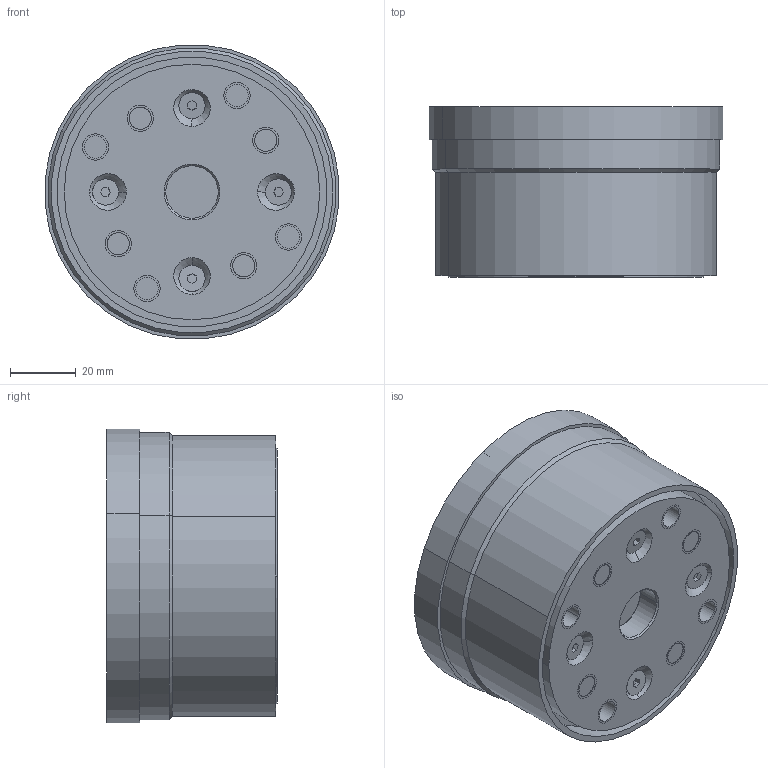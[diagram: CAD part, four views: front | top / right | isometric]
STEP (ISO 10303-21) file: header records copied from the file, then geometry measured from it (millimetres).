
FILE_DESCRIPTION((''),'2;1');
FILE_NAME('BS6-090-078','2018-02-27T',('CSW'),(''),'CREO PARAMETRIC BY PTC INC, 2016260','CREO PARAMETRIC BY PTC INC, 2016260','');
FILE_SCHEMA(('AUTOMOTIVE_DESIGN { 1 0 10303 214 1 1 1 1 }'));
Length unit declared in the file: millimetre
Products named in the file (1): BS6-090-078
Bounding box: 89.66 x 52 x 89.66 mm (x, y, z)
Volume: 298335.6 mm3; surface area: 40569 mm2
Topology: 1 solids, 53 shells, 525 faces, 1176 edges, 738 vertices
Faces by surface type: cylinder 218, plane 211, cone 80, torus 16
Entity records: 14920 total; most frequent: CARTESIAN_POINT 2785, DIRECTION 2734, ORIENTED_EDGE 2176, EDGE_CURVE 1160, AXIS2_PLACEMENT_3D 1080, VERTEX_POINT 738, EDGE_LOOP 610, VECTOR 574
